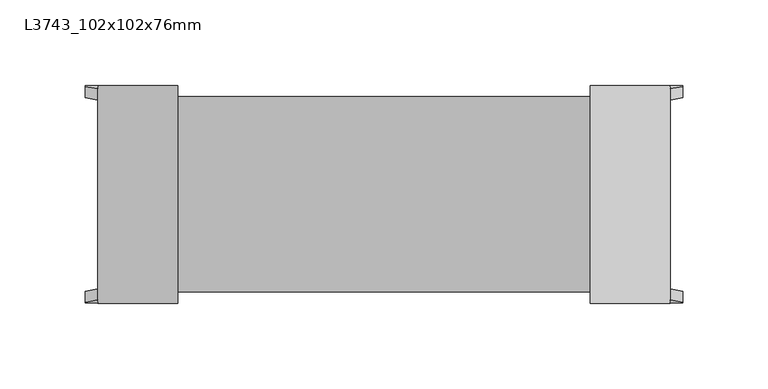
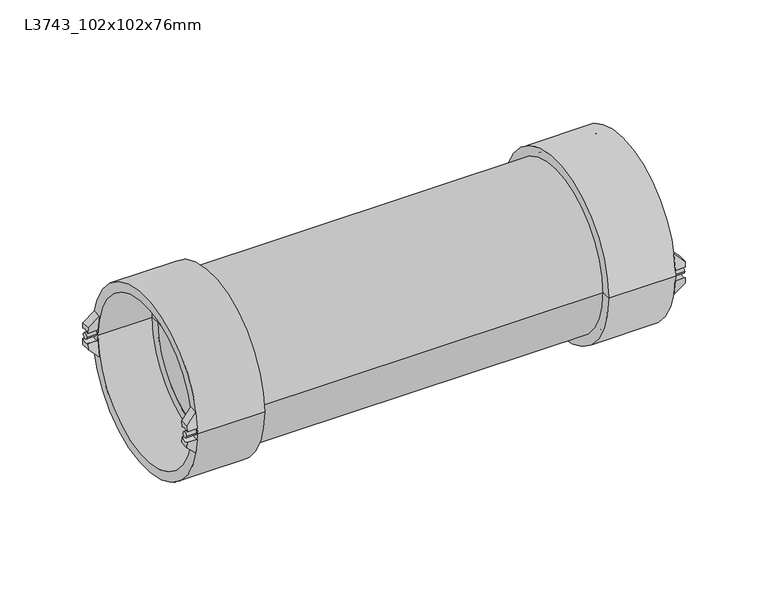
"""IFC4 building model written with IfcOpenShell, lengths in millimetres: pipe fitting geometry, Durapipe_PipeFitting_VulcatheneEnfusion_SingleReducingWye_L37 : L3743_102x102x76mm."""

from ifc_helpers import new_model, si_unit, point, frame, frame_2d, origin, place, context, project, spatial, polyline, circle_curve, ellipse_curve, trimmed, segment, composite_curve, outline, extrude, source, transform, mapped, element, save
from ifc_brep_helpers import plane_surface, cylinder_surface, revolved_surface, advanced_brep


def l3743_102x102x76mm_b6f7215f(model_context):
    return source(origin(), model_context, "Body", "SolidModel", [
        advanced_brep(
        [(258.0, -57.1766484, -3.7577755), (258.0, -63.5266484, -3.9607376), (258.0, -63.1528218, -7.94), (258.0, -56.7472149, -7.94), (250.9, -61.8572752, -15.0), (250.9, -63.5266484, -3.9607376), (250.9, -57.1766484, -3.7577755), (250.9, -55.3018083, -15.0)],
        [
            (0, 1, circle_curve(frame((258.0, -60.475, 0.0), z_axis=(-1.0, 0.0, 0.0), x_axis=(0.0, 1.0, 0.0)), 5.0)),
            (1, 2, circle_curve(frame((258.0, 0.0, 0.0), z_axis=(1.0, 0.0, 0.0), x_axis=(0.0, 1.0, 0.0)), 63.65)),
            (2, 3),
            (3, 0, circle_curve(frame((258.0, 0.0, 0.0), z_axis=(-1.0, 0.0, 0.0), x_axis=(0.0, 1.0, 0.0)), 57.3)),
            (4, 5, circle_curve(frame((250.9, 0.0, 0.0), z_axis=(-1.0, 0.0, 0.0), x_axis=(0.0, 1.0, 0.0)), 63.65)),
            (5, 6, circle_curve(frame((250.9, -60.475, 0.0), z_axis=(1.0, 0.0, 0.0), x_axis=(0.0, 1.0, 0.0)), 5.0)),
            (6, 7, circle_curve(frame((250.9, 0.0, 0.0), z_axis=(1.0, 0.0, 0.0), x_axis=(0.0, 1.0, 0.0)), 57.3)),
            (7, 4),
            (6, 0),
            (3, 7, ellipse_curve(frame((265.9849858, 0.0, 0.0), z_axis=(0.705106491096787, 0.0, -0.7091014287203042), x_axis=(-0.7091014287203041, 0.0, -0.705106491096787)), 81.2643207, 57.3)),
            (4, 2, ellipse_curve(frame((265.9849858, 0.0, 0.0), z_axis=(-0.705106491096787, 0.0, 0.7091014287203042), x_axis=(0.7091014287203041, 0.0, 0.705106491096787)), 90.2700525, 63.65)),
            (1, 5),
        ],
        [
            plane_surface(frame((258.0, -61.8572752, -15.0), z_axis=(1.0, 0.0, 0.0), x_axis=(0.0, 1.0, 0.0))),
            plane_surface(frame((250.9, -61.8572752, -15.0), z_axis=(-1.0, 0.0, 0.0), x_axis=(0.0, -1.0, 0.0))),
            revolved_surface(polyline([(208.360339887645, 57.3, 0.0), (323.609631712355, 57.3, 0.0)]), (250.9, 0.0, 0.0), (-1.0, 0.0, 0.0)),
            cylinder_surface(frame((250.9, 0.0, 0.0), z_axis=(1.0, 0.0, 0.0), x_axis=(0.0, 1.0, 0.0)), 63.65),
            revolved_surface(polyline([(258.0, -55.475, 0.0), (250.9, -55.475, 0.0)]), (250.9, -60.475, 0.0), (1.0, 0.0, 0.0)),
            plane_surface(frame((250.9, 63.65, -15.0), z_axis=(0.705106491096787, 0.0, -0.7091014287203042), x_axis=(0.0, -1.0, 0.0))),
        ],
        [
            (0, [[1, 2, 3, 4]]),
            (1, [[5, 6, 7, 8]]),
            (2, [[-7, 9, -4, 10]]),
            (3, [[-5, 11, -2, 12]]),
            (4, [[-1, -9, -6, -12]]),
            (5, [[-3, -11, -8, -10]]),
        ],
    ),
        advanced_brep(
        [(258.0, -63.5266484, 3.9607376), (258.0, -57.1766484, 3.7577755), (258.0, -56.7472149, 7.94), (258.0, -63.1528218, 7.94), (250.9, -63.5266484, 3.9607376), (250.9, -61.8572752, 15.0), (250.9, -55.3018083, 15.0), (250.9, -57.1766484, 3.7577755)],
        [
            (0, 1, circle_curve(frame((258.0, -60.475, 0.0), z_axis=(-1.0, 0.0, 0.0), x_axis=(0.0, 1.0, 0.0)), 5.0)),
            (1, 2, circle_curve(frame((258.0, 0.0, 0.0), z_axis=(-1.0, 0.0, 0.0), x_axis=(0.0, 1.0, 0.0)), 57.3)),
            (2, 3),
            (3, 0, circle_curve(frame((258.0, 0.0, 0.0), z_axis=(1.0, 0.0, 0.0), x_axis=(0.0, 1.0, 0.0)), 63.65)),
            (4, 5, circle_curve(frame((250.9, 0.0, 0.0), z_axis=(-1.0, 0.0, 0.0), x_axis=(0.0, 1.0, 0.0)), 63.65)),
            (5, 6),
            (6, 7, circle_curve(frame((250.9, 0.0, 0.0), z_axis=(1.0, 0.0, 0.0), x_axis=(0.0, 1.0, 0.0)), 57.3)),
            (7, 4, circle_curve(frame((250.9, -60.475, 0.0), z_axis=(1.0, 0.0, 0.0), x_axis=(0.0, 1.0, 0.0)), 5.0)),
            (6, 2, ellipse_curve(frame((265.9849858, 0.0, 0.0), z_axis=(0.7051064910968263, 0.0, 0.7091014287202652), x_axis=(-0.7091014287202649, 0.0, 0.7051064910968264)), 81.2643207, 57.3)),
            (1, 7),
            (4, 0),
            (3, 5, ellipse_curve(frame((265.9849858, 0.0, 0.0), z_axis=(-0.7051064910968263, 0.0, -0.7091014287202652), x_axis=(0.7091014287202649, 0.0, -0.7051064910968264)), 90.2700525, 63.65)),
        ],
        [
            plane_surface(frame((258.0, -61.8572752, -15.0), z_axis=(1.0, 0.0, 0.0), x_axis=(0.0, 1.0, 0.0))),
            plane_surface(frame((250.9, -61.8572752, -15.0), z_axis=(-1.0, 0.0, 0.0), x_axis=(0.0, -1.0, 0.0))),
            revolved_surface(polyline([(208.3603398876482, 57.3, 0.0), (323.6096317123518, 57.3, 0.0)]), (250.9, 0.0, 0.0), (-1.0, 0.0, 0.0)),
            cylinder_surface(frame((250.9, 0.0, 0.0), z_axis=(1.0, 0.0, 0.0), x_axis=(0.0, 1.0, 0.0)), 63.65),
            revolved_surface(polyline([(258.0, -55.475, 0.0), (250.9, -55.475, 0.0)]), (250.9, -60.475, 0.0), (1.0, 0.0, 0.0)),
            plane_surface(frame((258.0, 63.65, 7.94), z_axis=(0.7051064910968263, 0.0, 0.7091014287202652), x_axis=(0.0, -1.0, 0.0))),
        ],
        [
            (0, [[1, 2, 3, 4]]),
            (1, [[5, 6, 7, 8]]),
            (2, [[-7, 9, -2, 10]]),
            (3, [[-5, 11, -4, 12]]),
            (4, [[-1, -11, -8, -10]]),
            (5, [[-3, -9, -6, -12]]),
        ],
    ),
        advanced_brep(
        [(258.0, 63.5266484, -3.9607376), (258.0, 57.1766484, -3.7577755), (258.0, 56.7472149, -7.94), (258.0, 63.1528218, -7.94), (250.9, 63.5266484, -3.9607376), (250.9, 61.8572752, -15.0), (250.9, 55.3018083, -15.0), (250.9, 57.1766484, -3.7577755)],
        [
            (0, 1, circle_curve(frame((258.0, 60.475, 0.0), z_axis=(-1.0, 0.0, 0.0), x_axis=(0.0, 1.0, 0.0)), 5.0)),
            (1, 2, circle_curve(frame((258.0, 0.0, 0.0), z_axis=(-1.0, 0.0, 0.0), x_axis=(0.0, 1.0, 0.0)), 57.3)),
            (2, 3),
            (3, 0, circle_curve(frame((258.0, 0.0, 0.0), z_axis=(1.0, 0.0, 0.0), x_axis=(0.0, 1.0, 0.0)), 63.65)),
            (4, 5, circle_curve(frame((250.9, 0.0, 0.0), z_axis=(-1.0, 0.0, 0.0), x_axis=(0.0, 1.0, 0.0)), 63.65)),
            (5, 6),
            (6, 7, circle_curve(frame((250.9, 0.0, 0.0), z_axis=(1.0, 0.0, 0.0), x_axis=(0.0, 1.0, 0.0)), 57.3)),
            (7, 4, circle_curve(frame((250.9, 60.475, 0.0), z_axis=(1.0, 0.0, 0.0), x_axis=(0.0, 1.0, 0.0)), 5.0)),
            (6, 2, ellipse_curve(frame((265.9849858, 0.0, 0.0), z_axis=(0.705106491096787, 0.0, -0.7091014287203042), x_axis=(-0.7091014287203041, 0.0, -0.705106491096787)), 81.2643207, 57.3)),
            (1, 7),
            (4, 0),
            (3, 5, ellipse_curve(frame((265.9849858, 0.0, 0.0), z_axis=(-0.705106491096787, 0.0, 0.7091014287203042), x_axis=(0.7091014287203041, 0.0, 0.705106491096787)), 90.2700525, 63.65)),
        ],
        [
            plane_surface(frame((258.0, -61.8572752, -15.0), z_axis=(1.0, 0.0, 0.0), x_axis=(0.0, 1.0, 0.0))),
            plane_surface(frame((250.9, -61.8572752, -15.0), z_axis=(-1.0, 0.0, 0.0), x_axis=(0.0, -1.0, 0.0))),
            revolved_surface(polyline([(208.360339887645, 57.3, 0.0), (323.609631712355, 57.3, 0.0)]), (250.9, 0.0, 0.0), (-1.0, 0.0, 0.0)),
            cylinder_surface(frame((250.9, 0.0, 0.0), z_axis=(1.0, 0.0, 0.0), x_axis=(0.0, 1.0, 0.0)), 63.65),
            revolved_surface(polyline([(258.0, 65.475, 0.0), (250.9, 65.475, 0.0)]), (250.9, 60.475, 0.0), (1.0, 0.0, 0.0)),
            plane_surface(frame((250.9, 63.65, -15.0), z_axis=(0.705106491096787, 0.0, -0.7091014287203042), x_axis=(0.0, -1.0, 0.0))),
        ],
        [
            (0, [[1, 2, 3, 4]]),
            (1, [[5, 6, 7, 8]]),
            (2, [[-7, 9, -2, 10]]),
            (3, [[-5, 11, -4, 12]]),
            (4, [[-1, -11, -8, -10]]),
            (5, [[-3, -9, -6, -12]]),
        ],
    ),
        advanced_brep(
        [(258.0, 57.1766484, 3.7577755), (258.0, 63.5266484, 3.9607376), (258.0, 63.1528218, 7.94), (258.0, 56.7472149, 7.94), (250.9, 61.8572752, 15.0), (250.9, 63.5266484, 3.9607376), (250.9, 57.1766484, 3.7577755), (250.9, 55.3018083, 15.0)],
        [
            (0, 1, circle_curve(frame((258.0, 60.475, 0.0), z_axis=(-1.0, 0.0, 0.0), x_axis=(0.0, 1.0, 0.0)), 5.0)),
            (1, 2, circle_curve(frame((258.0, 0.0, 0.0), z_axis=(1.0, 0.0, 0.0), x_axis=(0.0, 1.0, 0.0)), 63.65)),
            (2, 3),
            (3, 0, circle_curve(frame((258.0, 0.0, 0.0), z_axis=(-1.0, 0.0, 0.0), x_axis=(0.0, 1.0, 0.0)), 57.3)),
            (4, 5, circle_curve(frame((250.9, 0.0, 0.0), z_axis=(-1.0, 0.0, 0.0), x_axis=(0.0, 1.0, 0.0)), 63.65)),
            (5, 6, circle_curve(frame((250.9, 60.475, 0.0), z_axis=(1.0, 0.0, 0.0), x_axis=(0.0, 1.0, 0.0)), 5.0)),
            (6, 7, circle_curve(frame((250.9, 0.0, 0.0), z_axis=(1.0, 0.0, 0.0), x_axis=(0.0, 1.0, 0.0)), 57.3)),
            (7, 4),
            (6, 0),
            (3, 7, ellipse_curve(frame((265.9849858, 0.0, 0.0), z_axis=(0.7051064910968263, 0.0, 0.7091014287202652), x_axis=(-0.7091014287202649, 0.0, 0.7051064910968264)), 81.2643207, 57.3)),
            (4, 2, ellipse_curve(frame((265.9849858, 0.0, 0.0), z_axis=(-0.7051064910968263, 0.0, -0.7091014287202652), x_axis=(0.7091014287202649, 0.0, -0.7051064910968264)), 90.2700525, 63.65)),
            (1, 5),
        ],
        [
            plane_surface(frame((258.0, -61.8572752, -15.0), z_axis=(1.0, 0.0, 0.0), x_axis=(0.0, 1.0, 0.0))),
            plane_surface(frame((250.9, -61.8572752, -15.0), z_axis=(-1.0, 0.0, 0.0), x_axis=(0.0, -1.0, 0.0))),
            revolved_surface(polyline([(208.3603398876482, 57.3, 0.0), (323.6096317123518, 57.3, 0.0)]), (250.9, 0.0, 0.0), (-1.0, 0.0, 0.0)),
            cylinder_surface(frame((250.9, 0.0, 0.0), z_axis=(1.0, 0.0, 0.0), x_axis=(0.0, 1.0, 0.0)), 63.65),
            revolved_surface(polyline([(258.0, 65.475, 0.0), (250.9, 65.475, 0.0)]), (250.9, 60.475, 0.0), (1.0, 0.0, 0.0)),
            plane_surface(frame((258.0, 63.65, 7.94), z_axis=(0.7051064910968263, 0.0, 0.7091014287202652), x_axis=(0.0, -1.0, 0.0))),
        ],
        [
            (0, [[1, 2, 3, 4]]),
            (1, [[5, 6, 7, 8]]),
            (2, [[-7, 9, -4, 10]]),
            (3, [[-5, 11, -2, 12]]),
            (4, [[-1, -9, -6, -12]]),
            (5, [[-3, -11, -8, -10]]),
        ],
    ),
        extrude(outline(composite_curve([segment(trimmed(circle_curve(frame_2d((-60.475, 0.0)), 2.0), [point((-62.475, 0.0))], [point((-58.475, 0.0))], False, "CARTESIAN"), True, "CONTINUOUS"), segment(trimmed(circle_curve(frame_2d((-60.475, 0.0)), 2.0), [point((-58.475, 0.0))], [point((-62.475, 0.0))], False, "CARTESIAN"), True, "CONTINUOUS")], self_intersect=False)), frame((250.9, 0.0, 0.0), z_axis=(1.0, 0.0, 0.0), x_axis=(0.0, 1.0, 0.0)), (0.0, 0.0, 1.0), 7.1),
        extrude(outline(composite_curve([segment(trimmed(circle_curve(frame_2d((60.475, 0.0)), 2.0), [point((58.475, 0.0))], [point((62.475, 0.0))], False, "CARTESIAN"), True, "CONTINUOUS"), segment(trimmed(circle_curve(frame_2d((60.475, 0.0)), 2.0), [point((62.475, 0.0))], [point((58.475, 0.0))], False, "CARTESIAN"), True, "CONTINUOUS")], self_intersect=False)), frame((250.9, 0.0, 0.0), z_axis=(1.0, 0.0, 0.0), x_axis=(0.0, 1.0, 0.0)), (0.0, 0.0, 1.0), 7.1),
        advanced_brep(
        [(212.8, -50.75, 0.0), (212.8, 50.75, 0.0), (212.8, 57.15, 0.0), (212.8, -57.15, 0.0), (204.0, -50.75, 0.0), (204.0, 50.75, 0.0), (204.0, -63.8, 0.0), (204.0, 63.8, 0.0), (250.9, -63.8, 0.0), (250.9, 63.8, 0.0), (250.9, -57.15, 0.0), (250.9, 57.15, 0.0)],
        [
            (0, 1, circle_curve(frame((212.8, 0.0, 0.0), z_axis=(-1.0, 0.0, 0.0), x_axis=(0.0, 1.0, 0.0)), 50.75)),
            (1, 2),
            (2, 3, circle_curve(frame((212.8, 0.0, 0.0), z_axis=(1.0, 0.0, 0.0), x_axis=(0.0, 1.0, 0.0)), 57.15)),
            (3, 0),
            (1, 0, circle_curve(frame((212.8, 0.0, 0.0), z_axis=(-1.0, 0.0, 0.0), x_axis=(0.0, 1.0, 0.0)), 50.75)),
            (3, 2, circle_curve(frame((212.8, 0.0, 0.0), z_axis=(1.0, 0.0, 0.0), x_axis=(0.0, 1.0, 0.0)), 57.15)),
            (4, 5, circle_curve(frame((204.0, 0.0, 0.0), z_axis=(-1.0, 0.0, 0.0), x_axis=(0.0, 1.0, 0.0)), 50.75)),
            (5, 1),
            (0, 4),
            (5, 4, circle_curve(frame((204.0, 0.0, 0.0), z_axis=(-1.0, 0.0, 0.0), x_axis=(0.0, 1.0, 0.0)), 50.75)),
            (6, 7, circle_curve(frame((204.0, 0.0, 0.0), z_axis=(-1.0, 0.0, 0.0), x_axis=(0.0, 1.0, 0.0)), 63.8)),
            (7, 5),
            (4, 6),
            (7, 6, circle_curve(frame((204.0, 0.0, 0.0), z_axis=(-1.0, 0.0, 0.0), x_axis=(0.0, 1.0, 0.0)), 63.8)),
            (8, 9, circle_curve(frame((250.9, 0.0, 0.0), z_axis=(-1.0, 0.0, 0.0), x_axis=(0.0, 1.0, 0.0)), 63.8)),
            (9, 7),
            (6, 8),
            (9, 8, circle_curve(frame((250.9, 0.0, 0.0), z_axis=(-1.0, 0.0, 0.0), x_axis=(0.0, 1.0, 0.0)), 63.8)),
            (10, 11, circle_curve(frame((250.9, 0.0, 0.0), z_axis=(-1.0, 0.0, 0.0), x_axis=(0.0, 1.0, 0.0)), 57.15)),
            (11, 9),
            (8, 10),
            (11, 10, circle_curve(frame((250.9, 0.0, 0.0), z_axis=(-1.0, 0.0, 0.0), x_axis=(0.0, 1.0, 0.0)), 57.15)),
            (2, 11),
            (10, 3),
        ],
        [
            plane_surface(frame((212.8, 0.0, 0.0), z_axis=(1.0, 0.0, 0.0), x_axis=(0.0, 1.0, 0.0))),
            revolved_surface(polyline([(212.80000000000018, 50.75, 0.0), (204.0, 50.75, 0.0)]), (2764.8826241, 0.0, 0.0), (1.0, 0.0, 0.0)),
            plane_surface(frame((204.0, 0.0, 0.0), z_axis=(-1.0, 0.0, 0.0), x_axis=(0.0, 1.0, 0.0))),
            cylinder_surface(frame((2764.8826241, 0.0, 0.0), z_axis=(1.0, 0.0, 0.0), x_axis=(0.0, 1.0, 0.0)), 63.8),
            plane_surface(frame((250.9, 0.0, 0.0), z_axis=(1.0, 0.0, 0.0), x_axis=(0.0, 1.0, 0.0))),
            revolved_surface(polyline([(250.9000000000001, 57.15, 0.0), (212.80000000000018, 57.15, 0.0)]), (2764.8826241, 0.0, 0.0), (1.0, 0.0, 0.0)),
        ],
        [
            (0, [[1, 2, 3, 4]]),
            (0, [[5, -4, 6, -2]]),
            (1, [[7, 8, -1, 9]]),
            (1, [[10, -9, -5, -8]]),
            (2, [[11, 12, -7, 13]]),
            (2, [[14, -13, -10, -12]]),
            (3, [[15, 16, -11, 17]]),
            (3, [[18, -17, -14, -16]]),
            (4, [[19, 20, -15, 21]]),
            (4, [[22, -21, -18, -20]]),
            (5, [[-3, 23, -19, 24]]),
            (5, [[-6, -24, -22, -23]]),
        ],
    ),
        advanced_brep(
        [(-91.2, -57.1766484, 3.7577755), (-91.2, -63.5266484, 3.9607376), (-91.2, -63.1528218, 7.94), (-91.2, -56.7472149, 7.94), (-84.1, -61.8572752, 15.0), (-84.1, -63.5266484, 3.9607376), (-84.1, -57.1766484, 3.7577755), (-84.1, -55.3018083, 15.0)],
        [
            (0, 1, circle_curve(frame((-91.2, -60.475, 0.0), z_axis=(1.0, 0.0, 0.0), x_axis=(0.0, 1.0, 0.0)), 5.0)),
            (1, 2, circle_curve(frame((-91.2, 0.0, 0.0), z_axis=(-1.0, 0.0, 0.0), x_axis=(0.0, 1.0, 0.0)), 63.65)),
            (2, 3),
            (3, 0, circle_curve(frame((-91.2, 0.0, 0.0), z_axis=(1.0, 0.0, 0.0), x_axis=(0.0, 1.0, 0.0)), 57.3)),
            (4, 5, circle_curve(frame((-84.1, 0.0, 0.0), z_axis=(1.0, 0.0, 0.0), x_axis=(0.0, 1.0, 0.0)), 63.65)),
            (5, 6, circle_curve(frame((-84.1, -60.475, 0.0), z_axis=(-1.0, 0.0, 0.0), x_axis=(0.0, 1.0, 0.0)), 5.0)),
            (6, 7, circle_curve(frame((-84.1, 0.0, 0.0), z_axis=(-1.0, 0.0, 0.0), x_axis=(0.0, 1.0, 0.0)), 57.3)),
            (7, 4),
            (6, 0),
            (3, 7, ellipse_curve(frame((-99.1849858, 0.0, 0.0), z_axis=(-0.705106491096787, 0.0, 0.7091014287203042), x_axis=(0.7091014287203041, 0.0, 0.705106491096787)), 81.2643207, 57.3)),
            (4, 2, ellipse_curve(frame((-99.1849858, 0.0, 0.0), z_axis=(0.705106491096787, 0.0, -0.7091014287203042), x_axis=(-0.7091014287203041, 0.0, -0.705106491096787)), 90.2700525, 63.65)),
            (1, 5),
        ],
        [
            plane_surface(frame((-91.2, -61.8572752, 15.0), z_axis=(-1.0, 0.0, 0.0), x_axis=(0.0, 1.0, 0.0))),
            plane_surface(frame((-84.1, -61.8572752, 15.0), z_axis=(1.0, 0.0, 0.0), x_axis=(0.0, -1.0, 0.0))),
            revolved_surface(polyline([(-41.56033988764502, 57.3, 0.0), (-156.80963171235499, 57.3, 0.0)]), (-84.1, 0.0, 0.0), (1.0, 0.0, 0.0)),
            cylinder_surface(frame((-84.1, 0.0, 0.0), z_axis=(-1.0, 0.0, 0.0), x_axis=(0.0, 1.0, 0.0)), 63.65),
            revolved_surface(polyline([(-91.2, -55.475, 0.0), (-84.1, -55.475, 0.0)]), (-84.1, -60.475, 0.0), (-1.0, 0.0, 0.0)),
            plane_surface(frame((-84.1, 63.65, 15.0), z_axis=(-0.705106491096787, 0.0, 0.7091014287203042), x_axis=(0.0, -1.0, 0.0))),
        ],
        [
            (0, [[1, 2, 3, 4]]),
            (1, [[5, 6, 7, 8]]),
            (2, [[-7, 9, -4, 10]]),
            (3, [[-5, 11, -2, 12]]),
            (4, [[-1, -9, -6, -12]]),
            (5, [[-3, -11, -8, -10]]),
        ],
    ),
        advanced_brep(
        [(-91.2, -63.5266484, -3.9607376), (-91.2, -57.1766484, -3.7577755), (-91.2, -56.7472149, -7.94), (-91.2, -63.1528218, -7.94), (-84.1, -63.5266484, -3.9607376), (-84.1, -61.8572752, -15.0), (-84.1, -55.3018083, -15.0), (-84.1, -57.1766484, -3.7577755)],
        [
            (0, 1, circle_curve(frame((-91.2, -60.475, 0.0), z_axis=(1.0, 0.0, 0.0), x_axis=(0.0, 1.0, 0.0)), 5.0)),
            (1, 2, circle_curve(frame((-91.2, 0.0, 0.0), z_axis=(1.0, 0.0, 0.0), x_axis=(0.0, 1.0, 0.0)), 57.3)),
            (2, 3),
            (3, 0, circle_curve(frame((-91.2, 0.0, 0.0), z_axis=(-1.0, 0.0, 0.0), x_axis=(0.0, 1.0, 0.0)), 63.65)),
            (4, 5, circle_curve(frame((-84.1, 0.0, 0.0), z_axis=(1.0, 0.0, 0.0), x_axis=(0.0, 1.0, 0.0)), 63.65)),
            (5, 6),
            (6, 7, circle_curve(frame((-84.1, 0.0, 0.0), z_axis=(-1.0, 0.0, 0.0), x_axis=(0.0, 1.0, 0.0)), 57.3)),
            (7, 4, circle_curve(frame((-84.1, -60.475, 0.0), z_axis=(-1.0, 0.0, 0.0), x_axis=(0.0, 1.0, 0.0)), 5.0)),
            (6, 2, ellipse_curve(frame((-99.1849858, 0.0, 0.0), z_axis=(-0.7051064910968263, 0.0, -0.7091014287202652), x_axis=(0.7091014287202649, 0.0, -0.7051064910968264)), 81.2643207, 57.3)),
            (1, 7),
            (4, 0),
            (3, 5, ellipse_curve(frame((-99.1849858, 0.0, 0.0), z_axis=(0.7051064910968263, 0.0, 0.7091014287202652), x_axis=(-0.7091014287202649, 0.0, 0.7051064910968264)), 90.2700525, 63.65)),
        ],
        [
            plane_surface(frame((-91.2, -61.8572752, 15.0), z_axis=(-1.0, 0.0, 0.0), x_axis=(0.0, 1.0, 0.0))),
            plane_surface(frame((-84.1, -61.8572752, 15.0), z_axis=(1.0, 0.0, 0.0), x_axis=(0.0, -1.0, 0.0))),
            revolved_surface(polyline([(-41.560339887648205, 57.3, 0.0), (-156.8096317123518, 57.3, 0.0)]), (-84.1, 0.0, 0.0), (1.0, 0.0, 0.0)),
            cylinder_surface(frame((-84.1, 0.0, 0.0), z_axis=(-1.0, 0.0, 0.0), x_axis=(0.0, 1.0, 0.0)), 63.65),
            revolved_surface(polyline([(-91.2, -55.475, 0.0), (-84.1, -55.475, 0.0)]), (-84.1, -60.475, 0.0), (-1.0, 0.0, 0.0)),
            plane_surface(frame((-91.2, 63.65, -7.94), z_axis=(-0.7051064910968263, 0.0, -0.7091014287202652), x_axis=(0.0, -1.0, 0.0))),
        ],
        [
            (0, [[1, 2, 3, 4]]),
            (1, [[5, 6, 7, 8]]),
            (2, [[-7, 9, -2, 10]]),
            (3, [[-5, 11, -4, 12]]),
            (4, [[-1, -11, -8, -10]]),
            (5, [[-3, -9, -6, -12]]),
        ],
    ),
        advanced_brep(
        [(-91.2, 63.5266484, 3.9607376), (-91.2, 57.1766484, 3.7577755), (-91.2, 56.7472149, 7.94), (-91.2, 63.1528218, 7.94), (-84.1, 63.5266484, 3.9607376), (-84.1, 61.8572752, 15.0), (-84.1, 55.3018083, 15.0), (-84.1, 57.1766484, 3.7577755)],
        [
            (0, 1, circle_curve(frame((-91.2, 60.475, 0.0), z_axis=(1.0, 0.0, 0.0), x_axis=(0.0, 1.0, 0.0)), 5.0)),
            (1, 2, circle_curve(frame((-91.2, 0.0, 0.0), z_axis=(1.0, 0.0, 0.0), x_axis=(0.0, 1.0, 0.0)), 57.3)),
            (2, 3),
            (3, 0, circle_curve(frame((-91.2, 0.0, 0.0), z_axis=(-1.0, 0.0, 0.0), x_axis=(0.0, 1.0, 0.0)), 63.65)),
            (4, 5, circle_curve(frame((-84.1, 0.0, 0.0), z_axis=(1.0, 0.0, 0.0), x_axis=(0.0, 1.0, 0.0)), 63.65)),
            (5, 6),
            (6, 7, circle_curve(frame((-84.1, 0.0, 0.0), z_axis=(-1.0, 0.0, 0.0), x_axis=(0.0, 1.0, 0.0)), 57.3)),
            (7, 4, circle_curve(frame((-84.1, 60.475, 0.0), z_axis=(-1.0, 0.0, 0.0), x_axis=(0.0, 1.0, 0.0)), 5.0)),
            (6, 2, ellipse_curve(frame((-99.1849858, 0.0, 0.0), z_axis=(-0.705106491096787, 0.0, 0.7091014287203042), x_axis=(0.7091014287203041, 0.0, 0.705106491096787)), 81.2643207, 57.3)),
            (1, 7),
            (4, 0),
            (3, 5, ellipse_curve(frame((-99.1849858, 0.0, 0.0), z_axis=(0.705106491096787, 0.0, -0.7091014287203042), x_axis=(-0.7091014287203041, 0.0, -0.705106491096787)), 90.2700525, 63.65)),
        ],
        [
            plane_surface(frame((-91.2, -61.8572752, 15.0), z_axis=(-1.0, 0.0, 0.0), x_axis=(0.0, 1.0, 0.0))),
            plane_surface(frame((-84.1, -61.8572752, 15.0), z_axis=(1.0, 0.0, 0.0), x_axis=(0.0, -1.0, 0.0))),
            revolved_surface(polyline([(-41.56033988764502, 57.3, 0.0), (-156.80963171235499, 57.3, 0.0)]), (-84.1, 0.0, 0.0), (1.0, 0.0, 0.0)),
            cylinder_surface(frame((-84.1, 0.0, 0.0), z_axis=(-1.0, 0.0, 0.0), x_axis=(0.0, 1.0, 0.0)), 63.65),
            revolved_surface(polyline([(-91.2, 65.475, 0.0), (-84.1, 65.475, 0.0)]), (-84.1, 60.475, 0.0), (-1.0, 0.0, 0.0)),
            plane_surface(frame((-84.1, 63.65, 15.0), z_axis=(-0.705106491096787, 0.0, 0.7091014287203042), x_axis=(0.0, -1.0, 0.0))),
        ],
        [
            (0, [[1, 2, 3, 4]]),
            (1, [[5, 6, 7, 8]]),
            (2, [[-7, 9, -2, 10]]),
            (3, [[-5, 11, -4, 12]]),
            (4, [[-1, -11, -8, -10]]),
            (5, [[-3, -9, -6, -12]]),
        ],
    ),
        advanced_brep(
        [(-91.2, 57.1766484, -3.7577755), (-91.2, 63.5266484, -3.9607376), (-91.2, 63.1528218, -7.94), (-91.2, 56.7472149, -7.94), (-84.1, 61.8572752, -15.0), (-84.1, 63.5266484, -3.9607376), (-84.1, 57.1766484, -3.7577755), (-84.1, 55.3018083, -15.0)],
        [
            (0, 1, circle_curve(frame((-91.2, 60.475, 0.0), z_axis=(1.0, 0.0, 0.0), x_axis=(0.0, 1.0, 0.0)), 5.0)),
            (1, 2, circle_curve(frame((-91.2, 0.0, 0.0), z_axis=(-1.0, 0.0, 0.0), x_axis=(0.0, 1.0, 0.0)), 63.65)),
            (2, 3),
            (3, 0, circle_curve(frame((-91.2, 0.0, 0.0), z_axis=(1.0, 0.0, 0.0), x_axis=(0.0, 1.0, 0.0)), 57.3)),
            (4, 5, circle_curve(frame((-84.1, 0.0, 0.0), z_axis=(1.0, 0.0, 0.0), x_axis=(0.0, 1.0, 0.0)), 63.65)),
            (5, 6, circle_curve(frame((-84.1, 60.475, 0.0), z_axis=(-1.0, 0.0, 0.0), x_axis=(0.0, 1.0, 0.0)), 5.0)),
            (6, 7, circle_curve(frame((-84.1, 0.0, 0.0), z_axis=(-1.0, 0.0, 0.0), x_axis=(0.0, 1.0, 0.0)), 57.3)),
            (7, 4),
            (6, 0),
            (3, 7, ellipse_curve(frame((-99.1849858, 0.0, 0.0), z_axis=(-0.7051064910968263, 0.0, -0.7091014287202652), x_axis=(0.7091014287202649, 0.0, -0.7051064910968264)), 81.2643207, 57.3)),
            (4, 2, ellipse_curve(frame((-99.1849858, 0.0, 0.0), z_axis=(0.7051064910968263, 0.0, 0.7091014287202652), x_axis=(-0.7091014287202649, 0.0, 0.7051064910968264)), 90.2700525, 63.65)),
            (1, 5),
        ],
        [
            plane_surface(frame((-91.2, -61.8572752, 15.0), z_axis=(-1.0, 0.0, 0.0), x_axis=(0.0, 1.0, 0.0))),
            plane_surface(frame((-84.1, -61.8572752, 15.0), z_axis=(1.0, 0.0, 0.0), x_axis=(0.0, -1.0, 0.0))),
            revolved_surface(polyline([(-41.560339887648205, 57.3, 0.0), (-156.8096317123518, 57.3, 0.0)]), (-84.1, 0.0, 0.0), (1.0, 0.0, 0.0)),
            cylinder_surface(frame((-84.1, 0.0, 0.0), z_axis=(-1.0, 0.0, 0.0), x_axis=(0.0, 1.0, 0.0)), 63.65),
            revolved_surface(polyline([(-91.2, 65.475, 0.0), (-84.1, 65.475, 0.0)]), (-84.1, 60.475, 0.0), (-1.0, 0.0, 0.0)),
            plane_surface(frame((-91.2, 63.65, -7.94), z_axis=(-0.7051064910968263, 0.0, -0.7091014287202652), x_axis=(0.0, -1.0, 0.0))),
        ],
        [
            (0, [[1, 2, 3, 4]]),
            (1, [[5, 6, 7, 8]]),
            (2, [[-7, 9, -4, 10]]),
            (3, [[-5, 11, -2, 12]]),
            (4, [[-1, -9, -6, -12]]),
            (5, [[-3, -11, -8, -10]]),
        ],
    ),
        extrude(outline(composite_curve([segment(trimmed(circle_curve(frame_2d((-60.475, 0.0)), 2.0), [point((-62.475, 0.0))], [point((-58.475, 0.0))], False, "CARTESIAN"), True, "CONTINUOUS"), segment(trimmed(circle_curve(frame_2d((-60.475, 0.0)), 2.0), [point((-58.475, 0.0))], [point((-62.475, 0.0))], False, "CARTESIAN"), True, "CONTINUOUS")], self_intersect=False)), frame((-91.2, 0.0, 0.0), z_axis=(1.0, 0.0, 0.0), x_axis=(0.0, 1.0, 0.0)), (0.0, 0.0, 1.0), 7.1),
        extrude(outline(composite_curve([segment(trimmed(circle_curve(frame_2d((60.475, 0.0)), 2.0), [point((58.475, 0.0))], [point((62.475, 0.0))], False, "CARTESIAN"), True, "CONTINUOUS"), segment(trimmed(circle_curve(frame_2d((60.475, 0.0)), 2.0), [point((62.475, 0.0))], [point((58.475, 0.0))], False, "CARTESIAN"), True, "CONTINUOUS")], self_intersect=False)), frame((-91.2, 0.0, 0.0), z_axis=(1.0, 0.0, 0.0), x_axis=(0.0, 1.0, 0.0)), (0.0, 0.0, 1.0), 7.1),
        advanced_brep(
        [(-46.0, -50.75, 0.0), (-46.0, 50.75, 0.0), (-46.0, 57.15, 0.0), (-46.0, -57.15, 0.0), (-37.2, -50.75, 0.0), (-37.2, 50.75, 0.0), (-37.2, -63.8, 0.0), (-37.2, 63.8, 0.0), (-84.1, -63.8, 0.0), (-84.1, 63.8, 0.0), (-84.1, -57.15, 0.0), (-84.1, 57.15, 0.0)],
        [
            (0, 1, circle_curve(frame((-46.0, 0.0, 0.0), z_axis=(1.0, 0.0, 0.0), x_axis=(0.0, 1.0, 0.0)), 50.75)),
            (1, 2),
            (2, 3, circle_curve(frame((-46.0, 0.0, 0.0), z_axis=(-1.0, 0.0, 0.0), x_axis=(0.0, 1.0, 0.0)), 57.15)),
            (3, 0),
            (1, 0, circle_curve(frame((-46.0, 0.0, 0.0), z_axis=(1.0, 0.0, 0.0), x_axis=(0.0, 1.0, 0.0)), 50.75)),
            (3, 2, circle_curve(frame((-46.0, 0.0, 0.0), z_axis=(-1.0, 0.0, 0.0), x_axis=(0.0, 1.0, 0.0)), 57.15)),
            (4, 5, circle_curve(frame((-37.2, 0.0, 0.0), z_axis=(1.0, 0.0, 0.0), x_axis=(0.0, 1.0, 0.0)), 50.75)),
            (5, 1),
            (0, 4),
            (5, 4, circle_curve(frame((-37.2, 0.0, 0.0), z_axis=(1.0, 0.0, 0.0), x_axis=(0.0, 1.0, 0.0)), 50.75)),
            (6, 7, circle_curve(frame((-37.2, 0.0, 0.0), z_axis=(1.0, 0.0, 0.0), x_axis=(0.0, 1.0, 0.0)), 63.8)),
            (7, 5),
            (4, 6),
            (7, 6, circle_curve(frame((-37.2, 0.0, 0.0), z_axis=(1.0, 0.0, 0.0), x_axis=(0.0, 1.0, 0.0)), 63.8)),
            (8, 9, circle_curve(frame((-84.1, 0.0, 0.0), z_axis=(1.0, 0.0, 0.0), x_axis=(0.0, 1.0, 0.0)), 63.8)),
            (9, 7),
            (6, 8),
            (9, 8, circle_curve(frame((-84.1, 0.0, 0.0), z_axis=(1.0, 0.0, 0.0), x_axis=(0.0, 1.0, 0.0)), 63.8)),
            (10, 11, circle_curve(frame((-84.1, 0.0, 0.0), z_axis=(1.0, 0.0, 0.0), x_axis=(0.0, 1.0, 0.0)), 57.15)),
            (11, 9),
            (8, 10),
            (11, 10, circle_curve(frame((-84.1, 0.0, 0.0), z_axis=(1.0, 0.0, 0.0), x_axis=(0.0, 1.0, 0.0)), 57.15)),
            (2, 11),
            (10, 3),
        ],
        [
            plane_surface(frame((-46.0, 0.0, 0.0), z_axis=(-1.0, 0.0, 0.0), x_axis=(0.0, 1.0, 0.0))),
            revolved_surface(polyline([(-46.0, 50.75, 0.0), (-37.19999999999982, 50.75, 0.0)]), (-2598.0826241, 0.0, 0.0), (-1.0, 0.0, 0.0)),
            plane_surface(frame((-37.2, 0.0, 0.0), z_axis=(1.0, 0.0, 0.0), x_axis=(0.0, 1.0, 0.0))),
            cylinder_surface(frame((-2598.0826241, 0.0, 0.0), z_axis=(-1.0, 0.0, 0.0), x_axis=(0.0, 1.0, 0.0)), 63.8),
            plane_surface(frame((-84.1, 0.0, 0.0), z_axis=(-1.0, 0.0, 0.0), x_axis=(0.0, 1.0, 0.0))),
            revolved_surface(polyline([(-84.09999999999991, 57.15, 0.0), (-46.0, 57.15, 0.0)]), (-2598.0826241, 0.0, 0.0), (-1.0, 0.0, 0.0)),
        ],
        [
            (0, [[1, 2, 3, 4]]),
            (0, [[5, -4, 6, -2]]),
            (1, [[7, 8, -1, 9]]),
            (1, [[10, -9, -5, -8]]),
            (2, [[11, 12, -7, 13]]),
            (2, [[14, -13, -10, -12]]),
            (3, [[15, 16, -11, 17]]),
            (3, [[18, -17, -14, -16]]),
            (4, [[19, 20, -15, 21]]),
            (4, [[22, -21, -18, -20]]),
            (5, [[-3, 23, -19, 24]]),
            (5, [[-6, -24, -22, -23]]),
        ],
    ),
        advanced_brep(
        [(-46.0, 0.0, 0.0), (-46.0, 57.15, 0.0), (-46.0, -57.15, 0.0), (212.8, -57.15, 0.0), (212.8, 57.15, 0.0), (212.8, 0.0, 0.0)],
        [
            (0, 1),
            (1, 2, circle_curve(frame((-46.0, 0.0, 0.0), z_axis=(-1.0, 0.0, 0.0), x_axis=(0.0, 1.0, 0.0)), 57.15)),
            (2, 0),
            (2, 1, circle_curve(frame((-46.0, 0.0, 0.0), z_axis=(-1.0, 0.0, 0.0), x_axis=(0.0, 1.0, 0.0)), 57.15)),
            (3, 4, circle_curve(frame((212.8, 0.0, 0.0), z_axis=(1.0, 0.0, 0.0), x_axis=(0.0, 1.0, 0.0)), 57.15)),
            (4, 5),
            (5, 3),
            (4, 3, circle_curve(frame((212.8, 0.0, 0.0), z_axis=(1.0, 0.0, 0.0), x_axis=(0.0, 1.0, 0.0)), 57.15)),
            (1, 4),
            (3, 2),
        ],
        [
            plane_surface(frame((-46.0, 0.0, 0.0), z_axis=(-1.0, 0.0, 0.0), x_axis=(0.0, 1.0, 0.0))),
            plane_surface(frame((212.8, 0.0, 0.0), z_axis=(1.0, 0.0, 0.0), x_axis=(0.0, 1.0, 0.0))),
            cylinder_surface(frame((240.9, 0.0, 0.0), z_axis=(-1.0, 0.0, 0.0), x_axis=(0.0, 1.0, 0.0)), 57.15),
        ],
        [
            (0, [[1, 2, 3]]),
            (0, [[-3, 4, -1]]),
            (1, [[5, 6, 7]]),
            (1, [[8, -7, -6]]),
            (2, [[-2, 9, -5, 10]]),
            (2, [[-4, -10, -8, -9]]),
        ],
    ),
    ])


if __name__ == "__main__":
    model = new_model("IFC4")
    model_context = context("Model", 3, world=origin())
    ifc_project = project(units=[si_unit("LENGTHUNIT", "METRE", prefix="MILLI")], contexts=[model_context])
    site = spatial("IfcSite", under=ifc_project)
    building = spatial("IfcBuilding", under=site)
    placement = place(None, origin())
    l3743_102x102x76mm_shape = l3743_102x102x76mm_b6f7215f(model_context)
    element("IfcPipeFitting", 1, ObjectType="Durapipe_PipeFitting_VulcatheneEnfusion_SingleReducingWye_L37 : L3743_102x102x76mm", at=placement, inside=building, context=model_context, shape_type="MappedRepresentation", body=[
        mapped(l3743_102x102x76mm_shape, transform((0.0, 0.0, 0.0), x_axis=(1.0, 0.0, 0.0), y_axis=(0.0, 1.0, 0.0), z_axis=(0.0, 0.0, 1.0))),
    ])
    save(model, "model.ifc")
